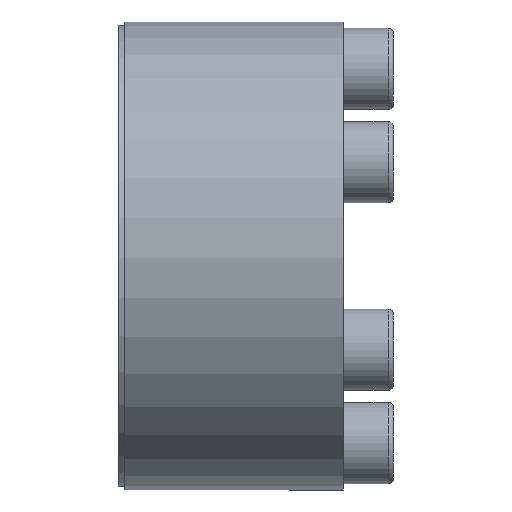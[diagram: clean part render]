
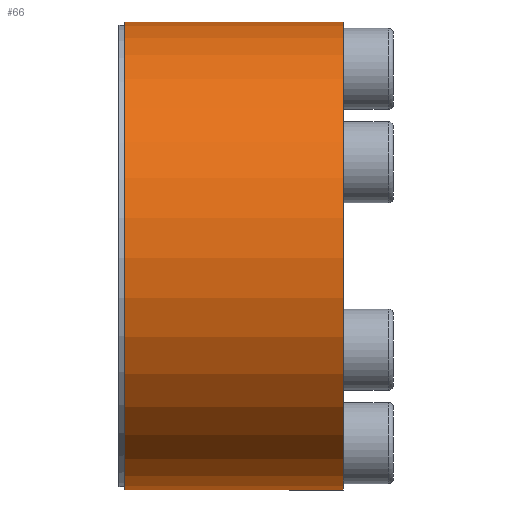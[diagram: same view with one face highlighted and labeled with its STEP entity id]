
A CAD part, left-side view. The second image highlights one B-rep face of the part: STEP entity #66.
In plain terms, the highlighted cylindrical face has radius 37.5 mm (diameter 75 mm), a partial arc.
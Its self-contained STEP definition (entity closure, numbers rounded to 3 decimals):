
#66 = ADVANCED_FACE( '', ( #133 ), #134, .T. );
#133 = FACE_OUTER_BOUND( '', #225, .T. );
#134 = CYLINDRICAL_SURFACE( '', #226, 37.5 );
#225 = EDGE_LOOP( '', ( #356, #357, #358, #359 ) );
#226 = AXIS2_PLACEMENT_3D( '', #360, #361, #362 );
#356 = ORIENTED_EDGE( '', *, *, #540, .T. );
#357 = ORIENTED_EDGE( '', *, *, #541, .T. );
#358 = ORIENTED_EDGE( '', *, *, #542, .T. );
#359 = ORIENTED_EDGE( '', *, *, #536, .T. );
#360 = CARTESIAN_POINT( '', ( 0., -60., 0. ) );
#361 = DIRECTION( '', ( 0., -1., 0. ) );
#362 = DIRECTION( '', ( 0., 0., 1. ) );
#536 = EDGE_CURVE( '', #661, #659, #662, .T. );
#540 = EDGE_CURVE( '', #659, #667, #668, .T. );
#541 = EDGE_CURVE( '', #667, #669, #670, .F. );
#542 = EDGE_CURVE( '', #669, #661, #671, .T. );
#659 = VERTEX_POINT( '', #893 );
#661 = VERTEX_POINT( '', #896 );
#662 = LINE( '', #897, #898 );
#667 = VERTEX_POINT( '', #907 );
#668 = CIRCLE( '', #908, 37.5 );
#669 = VERTEX_POINT( '', #909 );
#670 = LINE( '', #910, #911 );
#671 = CIRCLE( '', #912, 37.5 );
#893 = CARTESIAN_POINT( '', ( 17.932, 17., 32.935 ) );
#896 = CARTESIAN_POINT( '', ( 17.932, -18., 32.935 ) );
#897 = CARTESIAN_POINT( '', ( 17.932, -60., 32.935 ) );
#898 = VECTOR( '', #1019, 1000. );
#907 = CARTESIAN_POINT( '', ( 19.556, 17., 31.997 ) );
#908 = AXIS2_PLACEMENT_3D( '', #1021, #1022, #1023 );
#909 = CARTESIAN_POINT( '', ( 19.556, -18., 31.997 ) );
#910 = CARTESIAN_POINT( '', ( 19.556, -60., 31.997 ) );
#911 = VECTOR( '', #1024, 1000. );
#912 = AXIS2_PLACEMENT_3D( '', #1025, #1026, #1027 );
#1019 = DIRECTION( '', ( 0., 1., 0. ) );
#1021 = CARTESIAN_POINT( '', ( 0., 17., 0. ) );
#1022 = DIRECTION( '', ( 0., -1., 0. ) );
#1023 = DIRECTION( '', ( 0., 0., -1. ) );
#1024 = DIRECTION( '', ( 0., 1., 0. ) );
#1025 = CARTESIAN_POINT( '', ( 0., -18., 0. ) );
#1026 = DIRECTION( '', ( 0., 1., 0. ) );
#1027 = DIRECTION( '', ( 0., 0., 1. ) );
